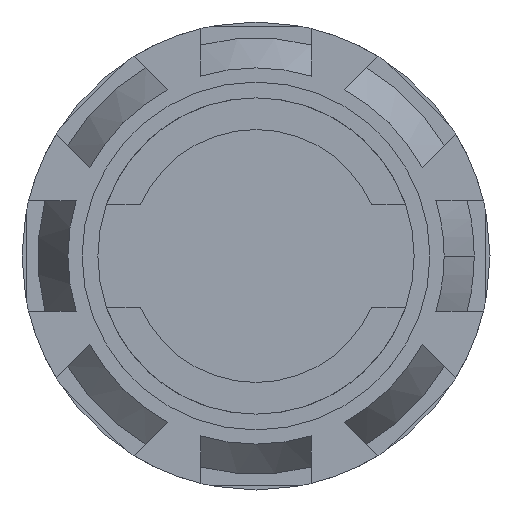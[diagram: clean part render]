
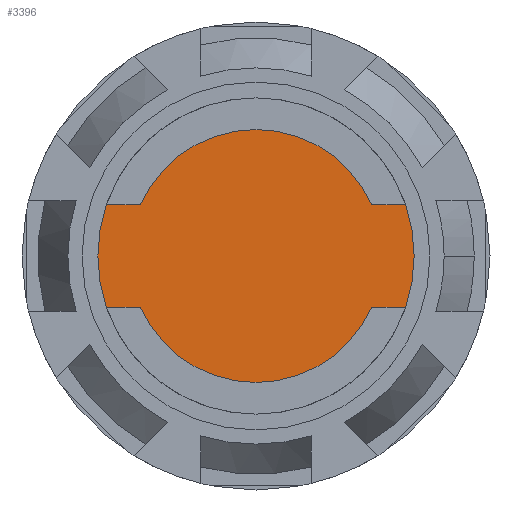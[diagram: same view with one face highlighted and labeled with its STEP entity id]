
A CAD part, front view. The second image highlights one B-rep face of the part: STEP entity #3396.
In plain terms, the highlighted planar face has unit normal (0, -1, 0).
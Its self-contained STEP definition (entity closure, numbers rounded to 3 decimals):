
#21 = CARTESIAN_POINT ( 'NONE',  ( 9.457, -14.7, -3.25 ) ) ;
#22 = DIRECTION ( 'NONE',  ( 1., 0., 0. ) ) ;
#25 = CARTESIAN_POINT ( 'NONE',  ( 0., -14.7, 0. ) ) ;
#30 = DIRECTION ( 'NONE',  ( 0., -1., 0. ) ) ;
#31 = DIRECTION ( 'NONE',  ( 1., 0., 0. ) ) ;
#32 = CARTESIAN_POINT ( 'NONE',  ( -7.31, -14.7, -3.25 ) ) ;
#33 = DIRECTION ( 'NONE',  ( 1., 0., 0. ) ) ;
#34 = CARTESIAN_POINT ( 'NONE',  ( -7.31, -14.7, 3.25 ) ) ;
#35 = DIRECTION ( 'NONE',  ( -1., 0., 0. ) ) ;
#38 = CARTESIAN_POINT ( 'NONE',  ( 0., -14.7, 0. ) ) ;
#40 = DIRECTION ( 'NONE',  ( 0., -1., 0. ) ) ;
#41 = DIRECTION ( 'NONE',  ( 1., 0., 0. ) ) ;
#91 = CARTESIAN_POINT ( 'NONE',  ( 0., -14.7, 0. ) ) ;
#94 = CARTESIAN_POINT ( 'NONE',  ( 9.457, -14.7, 3.25 ) ) ;
#95 = DIRECTION ( 'NONE',  ( -1., 0., 0. ) ) ;
#99 = DIRECTION ( 'NONE',  ( 0., -1., 0. ) ) ;
#100 = DIRECTION ( 'NONE',  ( 1., 0., 0. ) ) ;
#230 = PLANE ( 'NONE',  #770 ) ;
#252 = CARTESIAN_POINT ( 'NONE',  ( 0., -14.7, 0. ) ) ;
#258 = DIRECTION ( 'NONE',  ( 0., -1., 0. ) ) ;
#259 = DIRECTION ( 'NONE',  ( 1., 0., 0. ) ) ;
#632 = EDGE_LOOP ( 'NONE', ( #2312, #2315, #2306, #2301, #2308, #1930, #2236, #2240 ) ) ;
#770 = AXIS2_PLACEMENT_3D ( 'NONE', #252, #258, #259 ) ;
#773 = AXIS2_PLACEMENT_3D ( 'NONE', #91, #99, #100 ) ;
#776 = AXIS2_PLACEMENT_3D ( 'NONE', #38, #40, #41 ) ;
#910 = AXIS2_PLACEMENT_3D ( 'NONE', #25, #30, #31 ) ;
#915 = AXIS2_PLACEMENT_3D ( 'NONE', #2848, #2849, #2850 ) ;
#1039 = VERTEX_POINT ( 'NONE', #1693 ) ;
#1072 = VERTEX_POINT ( 'NONE', #3300 ) ;
#1073 = VERTEX_POINT ( 'NONE', #3322 ) ;
#1126 = VERTEX_POINT ( 'NONE', #3351 ) ;
#1127 = VERTEX_POINT ( 'NONE', #3333 ) ;
#1128 = VERTEX_POINT ( 'NONE', #3355 ) ;
#1131 = VERTEX_POINT ( 'NONE', #3363 ) ;
#1161 = VERTEX_POINT ( 'NONE', #3268 ) ;
#1693 = CARTESIAN_POINT ( 'NONE',  ( -9.457, -14.7, 3.25 ) ) ;
#1930 = ORIENTED_EDGE ( 'NONE', *, *, #3172, .T. ) ;
#2236 = ORIENTED_EDGE ( 'NONE', *, *, #3171, .T. ) ;
#2240 = ORIENTED_EDGE ( 'NONE', *, *, #3166, .T. ) ;
#2301 = ORIENTED_EDGE ( 'NONE', *, *, #3173, .T. ) ;
#2306 = ORIENTED_EDGE ( 'NONE', *, *, #3192, .T. ) ;
#2308 = ORIENTED_EDGE ( 'NONE', *, *, #3143, .T. ) ;
#2312 = ORIENTED_EDGE ( 'NONE', *, *, #3175, .T. ) ;
#2315 = ORIENTED_EDGE ( 'NONE', *, *, #3190, .T. ) ;
#2848 = CARTESIAN_POINT ( 'NONE',  ( 0., -14.7, 0. ) ) ;
#2849 = DIRECTION ( 'NONE',  ( 0., -1., 0. ) ) ;
#2850 = DIRECTION ( 'NONE',  ( 1., 0., 0. ) ) ;
#3143 = EDGE_CURVE ( 'NONE', #1039, #1131, #3704, .T. ) ;
#3166 = EDGE_CURVE ( 'NONE', #1161, #1072, #3741, .T. ) ;
#3171 = EDGE_CURVE ( 'NONE', #1128, #1161, #3752, .T. ) ;
#3172 = EDGE_CURVE ( 'NONE', #1131, #1128, #3733, .T. ) ;
#3173 = EDGE_CURVE ( 'NONE', #1127, #1039, #3753, .T. ) ;
#3175 = EDGE_CURVE ( 'NONE', #1072, #1073, #3760, .T. ) ;
#3190 = EDGE_CURVE ( 'NONE', #1073, #1126, #3779, .T. ) ;
#3192 = EDGE_CURVE ( 'NONE', #1126, #1127, #3785, .T. ) ;
#3268 = CARTESIAN_POINT ( 'NONE',  ( 7.31, -14.7, -3.25 ) ) ;
#3300 = CARTESIAN_POINT ( 'NONE',  ( 9.457, -14.7, -3.25 ) ) ;
#3322 = CARTESIAN_POINT ( 'NONE',  ( 9.457, -14.7, 3.25 ) ) ;
#3333 = CARTESIAN_POINT ( 'NONE',  ( -7.31, -14.7, 3.25 ) ) ;
#3351 = CARTESIAN_POINT ( 'NONE',  ( 7.31, -14.7, 3.25 ) ) ;
#3355 = CARTESIAN_POINT ( 'NONE',  ( -7.31, -14.7, -3.25 ) ) ;
#3363 = CARTESIAN_POINT ( 'NONE',  ( -9.457, -14.7, -3.25 ) ) ;
#3396 = ADVANCED_FACE ( 'NONE', ( #3843 ), #230, .T. ) ;
#3704 = CIRCLE ( 'NONE', #915, 10. ) ;
#3733 = LINE ( 'NONE', #32, #3734 ) ;
#3734 = VECTOR ( 'NONE', #33, 1000. ) ;
#3741 = LINE ( 'NONE', #21, #3742 ) ;
#3742 = VECTOR ( 'NONE', #22, 1000. ) ;
#3752 = CIRCLE ( 'NONE', #910, 8. ) ;
#3753 = LINE ( 'NONE', #34, #3754 ) ;
#3754 = VECTOR ( 'NONE', #35, 1000. ) ;
#3760 = CIRCLE ( 'NONE', #776, 10. ) ;
#3779 = LINE ( 'NONE', #94, #3780 ) ;
#3780 = VECTOR ( 'NONE', #95, 1000. ) ;
#3785 = CIRCLE ( 'NONE', #773, 8. ) ;
#3843 = FACE_OUTER_BOUND ( 'NONE', #632, .T. ) ;
